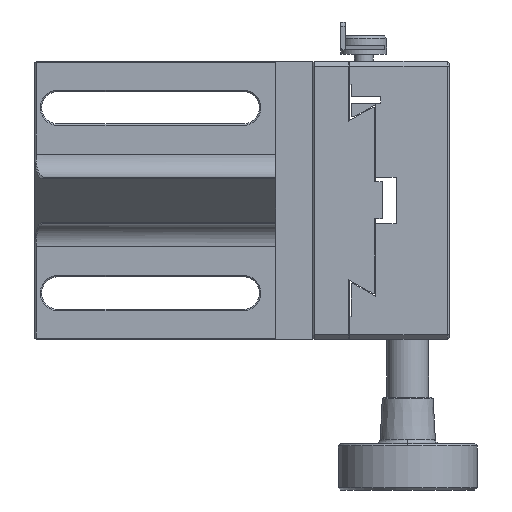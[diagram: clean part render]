
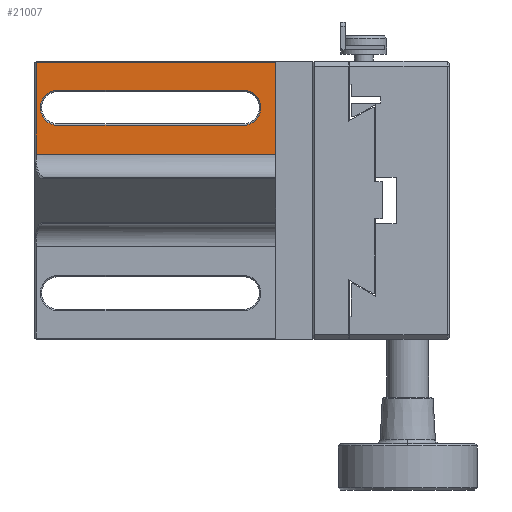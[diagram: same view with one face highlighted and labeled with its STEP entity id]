
A CAD part, left-side view. The second image highlights one B-rep face of the part: STEP entity #21007.
In plain terms, the highlighted planar face has unit normal (-1, 0, 0).
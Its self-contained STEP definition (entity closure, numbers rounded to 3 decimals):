
#565 = EDGE_CURVE ( 'NONE', #3243, #12220, #15285, .T. ) ;
#885 = CARTESIAN_POINT ( 'NONE',  ( 117., 19., 20. ) ) ;
#1530 = VERTEX_POINT ( 'NONE', #21169 ) ;
#1673 = DIRECTION ( 'NONE',  ( 0., 0., 1. ) ) ;
#1730 = AXIS2_PLACEMENT_3D ( 'NONE', #13630, #28528, #8563 ) ;
#1807 = CARTESIAN_POINT ( 'NONE',  ( 117., 38., 29.7 ) ) ;
#2754 = LINE ( 'NONE', #4342, #8578 ) ;
#3035 = EDGE_CURVE ( 'NONE', #12220, #14073, #4609, .T. ) ;
#3243 = VERTEX_POINT ( 'NONE', #8581 ) ;
#3523 = CARTESIAN_POINT ( 'NONE',  ( 117., 19., 23.8 ) ) ;
#4044 = FACE_BOUND ( 'NONE', #13019, .T. ) ;
#4342 = CARTESIAN_POINT ( 'NONE',  ( 117., 63.7, -30. ) ) ;
#4510 = PLANE ( 'NONE',  #13154 ) ;
#4609 = CIRCLE ( 'NONE', #27544, 3.8 ) ;
#5929 = LINE ( 'NONE', #1807, #12972 ) ;
#6035 = ORIENTED_EDGE ( 'NONE', *, *, #29376, .F. ) ;
#6686 = DIRECTION ( 'NONE',  ( 0., 1., 0. ) ) ;
#7142 = ORIENTED_EDGE ( 'NONE', *, *, #28935, .F. ) ;
#7418 = ORIENTED_EDGE ( 'NONE', *, *, #29340, .F. ) ;
#8187 = CARTESIAN_POINT ( 'NONE',  ( 117., 12., 16.2 ) ) ;
#8238 = VERTEX_POINT ( 'NONE', #30823 ) ;
#8563 = DIRECTION ( 'NONE',  ( 0., -1., 0. ) ) ;
#8578 = VECTOR ( 'NONE', #31811, 1000. ) ;
#8581 = CARTESIAN_POINT ( 'NONE',  ( 117., 19., 16.2 ) ) ;
#8612 = AXIS2_PLACEMENT_3D ( 'NONE', #885, #26179, #31237 ) ;
#9521 = VERTEX_POINT ( 'NONE', #23681 ) ;
#11357 = LINE ( 'NONE', #8187, #16445 ) ;
#11900 = CIRCLE ( 'NONE', #1730, 3.8 ) ;
#12220 = VERTEX_POINT ( 'NONE', #27826 ) ;
#12682 = VECTOR ( 'NONE', #1673, 1000. ) ;
#12894 = EDGE_CURVE ( 'NONE', #8238, #31052, #5929, .T. ) ;
#12966 = VERTEX_POINT ( 'NONE', #26975 ) ;
#12972 = VECTOR ( 'NONE', #19321, 1000. ) ;
#13019 = EDGE_LOOP ( 'NONE', ( #13345, #25974, #7418, #7142, #15061 ) ) ;
#13154 = AXIS2_PLACEMENT_3D ( 'NONE', #31556, #16545, #19080 ) ;
#13345 = ORIENTED_EDGE ( 'NONE', *, *, #565, .F. ) ;
#13630 = CARTESIAN_POINT ( 'NONE',  ( 117., 59., 20. ) ) ;
#14073 = VERTEX_POINT ( 'NONE', #3523 ) ;
#14628 = EDGE_CURVE ( 'NONE', #26905, #8238, #2754, .T. ) ;
#15061 = ORIENTED_EDGE ( 'NONE', *, *, #3035, .F. ) ;
#15285 = CIRCLE ( 'NONE', #8612, 3.8 ) ;
#15296 = DIRECTION ( 'NONE',  ( 0., -1., 0. ) ) ;
#16445 = VECTOR ( 'NONE', #23437, 1000. ) ;
#16545 = DIRECTION ( 'NONE',  ( 1., 0., 0. ) ) ;
#17957 = ORIENTED_EDGE ( 'NONE', *, *, #32420, .T. ) ;
#19080 = DIRECTION ( 'NONE',  ( 0., 0., -1. ) ) ;
#19321 = DIRECTION ( 'NONE',  ( 0., -1., 0. ) ) ;
#21007 = ADVANCED_FACE ( 'NONE', ( #4044, #31827 ), #4510, .F. ) ;
#21169 = CARTESIAN_POINT ( 'NONE',  ( 117., 59., 16.2 ) ) ;
#21404 = DIRECTION ( 'NONE',  ( 0., 1., 0. ) ) ;
#22481 = LINE ( 'NONE', #28286, #26753 ) ;
#23346 = EDGE_CURVE ( 'NONE', #1530, #3243, #11357, .T. ) ;
#23437 = DIRECTION ( 'NONE',  ( 0., -1., 0. ) ) ;
#23681 = CARTESIAN_POINT ( 'NONE',  ( 117., 12., 10. ) ) ;
#24429 = VECTOR ( 'NONE', #6686, 1000. ) ;
#25204 = CARTESIAN_POINT ( 'NONE',  ( 117., 12., 29.7 ) ) ;
#25393 = EDGE_LOOP ( 'NONE', ( #29442, #32181, #6035, #17957 ) ) ;
#25619 = LINE ( 'NONE', #29071, #12682 ) ;
#25974 = ORIENTED_EDGE ( 'NONE', *, *, #23346, .F. ) ;
#26179 = DIRECTION ( 'NONE',  ( -1., 0., 0. ) ) ;
#26746 = CARTESIAN_POINT ( 'NONE',  ( 117., 12., 10. ) ) ;
#26753 = VECTOR ( 'NONE', #21404, 1000. ) ;
#26905 = VERTEX_POINT ( 'NONE', #32063 ) ;
#26975 = CARTESIAN_POINT ( 'NONE',  ( 117., 59., 23.8 ) ) ;
#27544 = AXIS2_PLACEMENT_3D ( 'NONE', #32402, #30324, #15296 ) ;
#27826 = CARTESIAN_POINT ( 'NONE',  ( 117., 15.2, 20. ) ) ;
#28286 = CARTESIAN_POINT ( 'NONE',  ( 117., 12., 23.8 ) ) ;
#28528 = DIRECTION ( 'NONE',  ( -1., 0., 0. ) ) ;
#28935 = EDGE_CURVE ( 'NONE', #14073, #12966, #22481, .T. ) ;
#29071 = CARTESIAN_POINT ( 'NONE',  ( 117., 12., -30. ) ) ;
#29340 = EDGE_CURVE ( 'NONE', #12966, #1530, #11900, .T. ) ;
#29376 = EDGE_CURVE ( 'NONE', #9521, #26905, #31113, .T. ) ;
#29442 = ORIENTED_EDGE ( 'NONE', *, *, #12894, .F. ) ;
#30324 = DIRECTION ( 'NONE',  ( -1., 0., 0. ) ) ;
#30823 = CARTESIAN_POINT ( 'NONE',  ( 117., 63.7, 29.7 ) ) ;
#31052 = VERTEX_POINT ( 'NONE', #25204 ) ;
#31113 = LINE ( 'NONE', #26746, #24429 ) ;
#31237 = DIRECTION ( 'NONE',  ( 0., -1., 0. ) ) ;
#31556 = CARTESIAN_POINT ( 'NONE',  ( 117., 12., -30. ) ) ;
#31811 = DIRECTION ( 'NONE',  ( 0., 0., 1. ) ) ;
#31827 = FACE_OUTER_BOUND ( 'NONE', #25393, .T. ) ;
#32063 = CARTESIAN_POINT ( 'NONE',  ( 117., 63.7, 10. ) ) ;
#32181 = ORIENTED_EDGE ( 'NONE', *, *, #14628, .F. ) ;
#32402 = CARTESIAN_POINT ( 'NONE',  ( 117., 19., 20. ) ) ;
#32420 = EDGE_CURVE ( 'NONE', #9521, #31052, #25619, .T. ) ;
